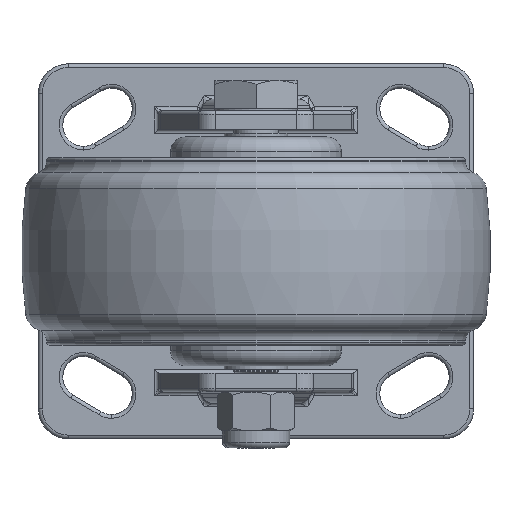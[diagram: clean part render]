
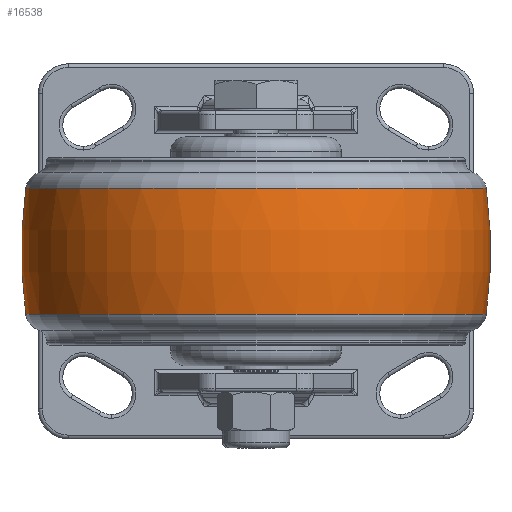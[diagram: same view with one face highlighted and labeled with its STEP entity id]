
A CAD part, front view. The second image highlights one B-rep face of the part: STEP entity #16538.
In plain terms, the highlighted toroidal (fillet/blend) face has major radius 64.028 mm and minor radius 126.528 mm.
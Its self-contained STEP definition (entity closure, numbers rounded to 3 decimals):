
#739 = EDGE_CURVE ( 'NONE', #19963, #17847, #13559, .T. ) ;
#1639 = AXIS2_PLACEMENT_3D ( 'NONE', #16133, #29808, #35329 ) ;
#3282 = CARTESIAN_POINT ( 'NONE',  ( 0., 0., 16.795 ) ) ;
#3344 = AXIS2_PLACEMENT_3D ( 'NONE', #5929, #35740, #19290 ) ;
#4978 = CIRCLE ( 'NONE', #5830, 61.38 ) ;
#5830 = AXIS2_PLACEMENT_3D ( 'NONE', #3282, #25260, #22539 ) ;
#5929 = CARTESIAN_POINT ( 'NONE',  ( 0., 0., 0. ) ) ;
#6084 = EDGE_CURVE ( 'NONE', #22620, #6392, #19746, .T. ) ;
#6392 = VERTEX_POINT ( 'NONE', #22241 ) ;
#8363 = CARTESIAN_POINT ( 'NONE',  ( 61.38, 0., -16.795 ) ) ;
#9081 = ORIENTED_EDGE ( 'NONE', *, *, #6084, .F. ) ;
#10836 = CARTESIAN_POINT ( 'NONE',  ( 61.38, 0., 16.795 ) ) ;
#12594 = CARTESIAN_POINT ( 'NONE',  ( 64.028, 0., 0. ) ) ;
#13559 = CIRCLE ( 'NONE', #20004, 126.528 ) ;
#15125 = DIRECTION ( 'NONE',  ( 0., 1., 0. ) ) ;
#15464 = ORIENTED_EDGE ( 'NONE', *, *, #31192, .T. ) ;
#16133 = CARTESIAN_POINT ( 'NONE',  ( 0., 0., -16.795 ) ) ;
#16177 = EDGE_LOOP ( 'NONE', ( #9081, #15464, #17296, #21226 ) ) ;
#16240 = TOROIDAL_SURFACE ( 'NONE', #3344, -64.028, 126.528 ) ;
#16538 = ADVANCED_FACE ( 'NONE', ( #17944 ), #16240, .T. ) ;
#17296 = ORIENTED_EDGE ( 'NONE', *, *, #739, .T. ) ;
#17847 = VERTEX_POINT ( 'NONE', #10836 ) ;
#17944 = FACE_OUTER_BOUND ( 'NONE', #16177, .T. ) ;
#19290 = DIRECTION ( 'NONE',  ( 1., 0., 0. ) ) ;
#19746 = CIRCLE ( 'NONE', #21223, 126.528 ) ;
#19963 = VERTEX_POINT ( 'NONE', #8363 ) ;
#20004 = AXIS2_PLACEMENT_3D ( 'NONE', #33629, #33866, #28233 ) ;
#21223 = AXIS2_PLACEMENT_3D ( 'NONE', #12594, #15125, #29179 ) ;
#21226 = ORIENTED_EDGE ( 'NONE', *, *, #21511, .F. ) ;
#21511 = EDGE_CURVE ( 'NONE', #6392, #17847, #4978, .T. ) ;
#22241 = CARTESIAN_POINT ( 'NONE',  ( -61.38, 0., 16.795 ) ) ;
#22539 = DIRECTION ( 'NONE',  ( 1., 0., 0. ) ) ;
#22620 = VERTEX_POINT ( 'NONE', #35485 ) ;
#25260 = DIRECTION ( 'NONE',  ( 0., 0., 1. ) ) ;
#28233 = DIRECTION ( 'NONE',  ( 0., 0., -1. ) ) ;
#29179 = DIRECTION ( 'NONE',  ( -1., 0., 0. ) ) ;
#29808 = DIRECTION ( 'NONE',  ( 0., 0., 1. ) ) ;
#31192 = EDGE_CURVE ( 'NONE', #22620, #19963, #32684, .T. ) ;
#32684 = CIRCLE ( 'NONE', #1639, 61.38 ) ;
#33629 = CARTESIAN_POINT ( 'NONE',  ( -64.028, 0., 0. ) ) ;
#33866 = DIRECTION ( 'NONE',  ( 0., -1., 0. ) ) ;
#35329 = DIRECTION ( 'NONE',  ( 1., 0., 0. ) ) ;
#35485 = CARTESIAN_POINT ( 'NONE',  ( -61.38, 0., -16.795 ) ) ;
#35740 = DIRECTION ( 'NONE',  ( 0., 0., 1. ) ) ;
